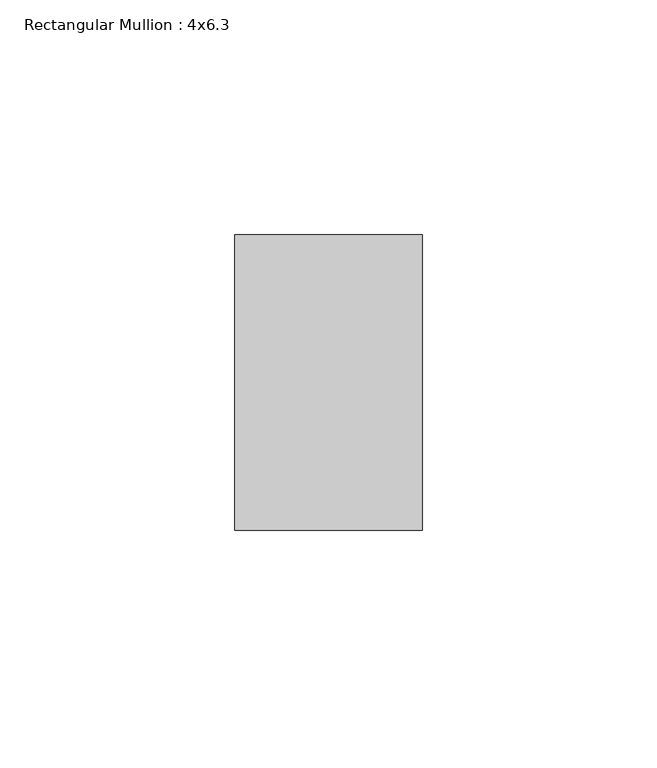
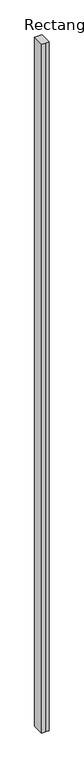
"""IFC4 building model written with IfcOpenShell, lengths in millimetres: member geometry, Rectangular Mullion : 4x6.3."""

from ifc_helpers import new_model, si_unit, frame, origin, place, context, project, spatial, polyline, outline, extrude, source, transform, mapped, element, save


def rectangular_mullion_4x6_3_c0ab840c(model_context):
    return source(origin(), model_context, "Body", "SweptSolid", [
        extrude(outline(polyline([(-20.0, 20.0), (-20.0, 83.0), (20.0, 83.0), (20.0, 20.0), (0.0, 20.0), (-20.0, 20.0)])), frame((0.0, 0.0, -3847.0915701), z_axis=(0.0, 0.0, 1.0), x_axis=(1.0, 0.0, 0.0)), (0.0, 0.0, 1.0), 3847.0915701),
    ])


if __name__ == "__main__":
    model = new_model("IFC4")
    model_context = context("Model", 3, world=origin())
    ifc_project = project(units=[si_unit("LENGTHUNIT", "METRE", prefix="MILLI")], contexts=[model_context])
    site = spatial("IfcSite", under=ifc_project)
    building = spatial("IfcBuilding", under=site)
    placement = place(None, origin())
    rectangular_mullion_4x6_3_shape = rectangular_mullion_4x6_3_c0ab840c(model_context)
    element("IfcMember", 1, ObjectType="Rectangular Mullion : 4x6.3", at=placement, inside=building, context=model_context, shape_type="MappedRepresentation", body=[
        mapped(rectangular_mullion_4x6_3_shape, transform((0.0, 0.0, 0.0), x_axis=(1.0, 0.0, 0.0), y_axis=(0.0, 1.0, 0.0), z_axis=(0.0, 0.0, 1.0))),
    ])
    save(model, "model.ifc")
